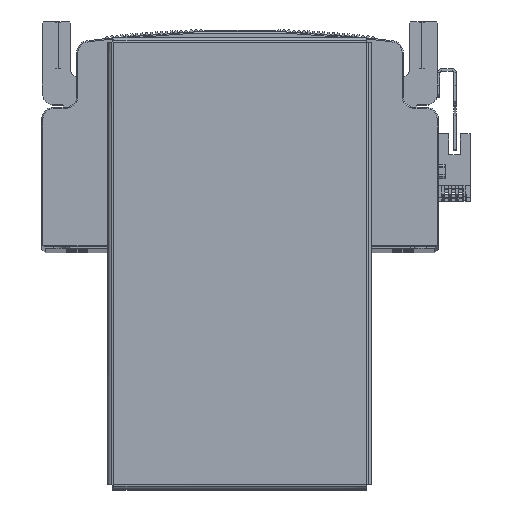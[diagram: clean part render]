
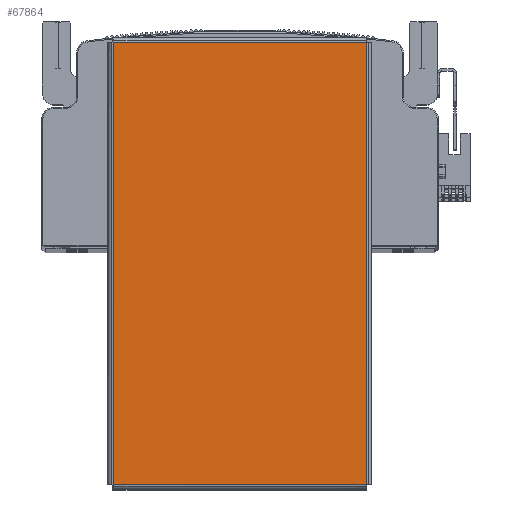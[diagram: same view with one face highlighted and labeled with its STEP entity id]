
A CAD part, top view. The second image highlights one B-rep face of the part: STEP entity #67864.
In plain terms, the highlighted planar face has unit normal (0, 0, 1) as drawn and (0, -1, 0) by its records, which use the part's own axes.
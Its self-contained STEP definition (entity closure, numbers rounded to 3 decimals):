
#8649 = CARTESIAN_POINT ( 'NONE',  ( -94.793, -1.5, -54.363 ) ) ;
#8651 = DIRECTION ( 'NONE',  ( 1., 0., 0. ) ) ;
#10747 = CARTESIAN_POINT ( 'NONE',  ( -94.763, -1.5, 54.393 ) ) ;
#10751 = DIRECTION ( 'NONE',  ( 0., 0., -1. ) ) ;
#11024 = CARTESIAN_POINT ( 'NONE',  ( 94.793, -1.5, 54.363 ) ) ;
#11027 = DIRECTION ( 'NONE',  ( -1., 0., 0. ) ) ;
#18435 = PLANE ( 'NONE',  #49250 ) ;
#18437 = CARTESIAN_POINT ( 'NONE',  ( 0., -1.5, 0. ) ) ;
#18438 = DIRECTION ( 'NONE',  ( 0., 1., 0. ) ) ;
#18455 = DIRECTION ( 'NONE',  ( 0., 0., 1. ) ) ;
#22895 = CARTESIAN_POINT ( 'NONE',  ( 94.763, -1.5, -54.393 ) ) ;
#22932 = DIRECTION ( 'NONE',  ( 0., 0., 1. ) ) ;
#27794 = EDGE_CURVE ( 'NONE', #63464, #63469, #71670, .T. ) ;
#27801 = EDGE_CURVE ( 'NONE', #63469, #63462, #71710, .T. ) ;
#27810 = EDGE_CURVE ( 'NONE', #63462, #63478, #71709, .T. ) ;
#27833 = EDGE_CURVE ( 'NONE', #63478, #63464, #71725, .T. ) ;
#31761 = EDGE_LOOP ( 'NONE', ( #59203, #59240, #59034, #59221 ) ) ;
#47268 = FACE_OUTER_BOUND ( 'NONE', #31761, .T. ) ;
#49250 = AXIS2_PLACEMENT_3D ( 'NONE', #18437, #18438, #18455 ) ;
#53916 = CARTESIAN_POINT ( 'NONE',  ( 94.763, -1.5, 54.363 ) ) ;
#53918 = CARTESIAN_POINT ( 'NONE',  ( -94.763, -1.5, 54.363 ) ) ;
#53920 = CARTESIAN_POINT ( 'NONE',  ( 94.763, -1.5, -54.363 ) ) ;
#53950 = CARTESIAN_POINT ( 'NONE',  ( -94.763, -1.5, -54.363 ) ) ;
#59034 = ORIENTED_EDGE ( 'NONE', *, *, #27810, .T. ) ;
#59203 = ORIENTED_EDGE ( 'NONE', *, *, #27794, .T. ) ;
#59221 = ORIENTED_EDGE ( 'NONE', *, *, #27833, .T. ) ;
#59240 = ORIENTED_EDGE ( 'NONE', *, *, #27801, .T. ) ;
#63462 = VERTEX_POINT ( 'NONE', #53950 ) ;
#63464 = VERTEX_POINT ( 'NONE', #53916 ) ;
#63469 = VERTEX_POINT ( 'NONE', #53918 ) ;
#63478 = VERTEX_POINT ( 'NONE', #53920 ) ;
#67864 = ADVANCED_FACE ( 'NONE', ( #47268 ), #18435, .F. ) ;
#71667 = VECTOR ( 'NONE', #8651, 1000. ) ;
#71670 = LINE ( 'NONE', #11024, #71672 ) ;
#71672 = VECTOR ( 'NONE', #11027, 1000. ) ;
#71676 = VECTOR ( 'NONE', #10751, 1000. ) ;
#71709 = LINE ( 'NONE', #8649, #71667 ) ;
#71710 = LINE ( 'NONE', #10747, #71676 ) ;
#71725 = LINE ( 'NONE', #22895, #71726 ) ;
#71726 = VECTOR ( 'NONE', #22932, 1000. ) ;
